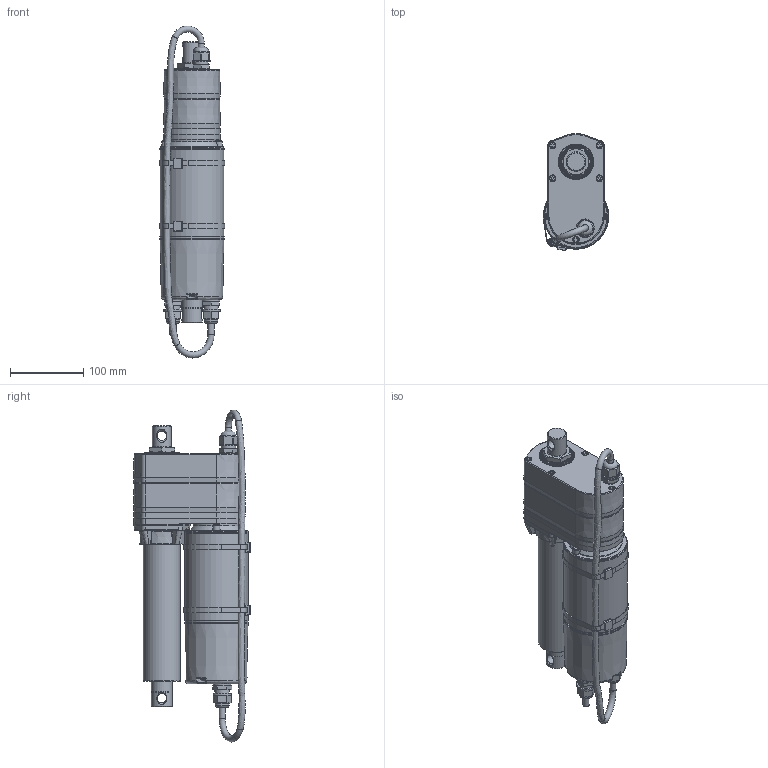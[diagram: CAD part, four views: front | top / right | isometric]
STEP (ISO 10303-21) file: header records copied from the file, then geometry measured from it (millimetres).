
FILE_DESCRIPTION (( 'STEP AP203' ), '1' );
FILE_NAME ('IA5-ACME+LT-102.STEP', '2019-02-27T09:04:41', ( '' ), ( '' ), 'SwSTEP 2.0', 'SolidWorks 2015', '' );
FILE_SCHEMA (( 'CONFIG_CONTROL_DESIGN' ));
Length unit declared in the file: millimetre
Products named in the file (3): IA05-A-1; IA05-A-2; IA5-ACME+LT-102
Assembly tree (2 placements, depth 2):
  IA5-ACME+LT-102
    IA05-A-1
    IA05-A-2
Bounding box: 89.57 x 159.59 x 454.06 mm (x, y, z)
Volume: 2955872.8 mm3; surface area: 274756.9 mm2
Topology: 3 solids, 3 shells, 1175 faces, 2986 edges, 1853 vertices
Faces by surface type: plane 696, cylinder 207, bspline 108, torus 100, cone 58, sphere 6
Full cylindrical faces by diameter (mm): 7 x3, 8.5 x8, 9 x5, 13 x2, 19 x2, 20 x3, 22 x1, 24 x2, 25 x3, 26 x1, 28 x1, 28.1 x1, 28.6 x3, 28.62 x1, 48.2 x1, 50.8 x2, 63.5 x1, 87 x3, 88 x3
Entity records: 39072 total; most frequent: CARTESIAN_POINT 13210, ORIENTED_EDGE 5750, DIRECTION 4884, EDGE_CURVE 2875, AXIS2_PLACEMENT_3D 1834, VERTEX_POINT 1827, EDGE_LOOP 1306, FACE_OUTER_BOUND 1239
